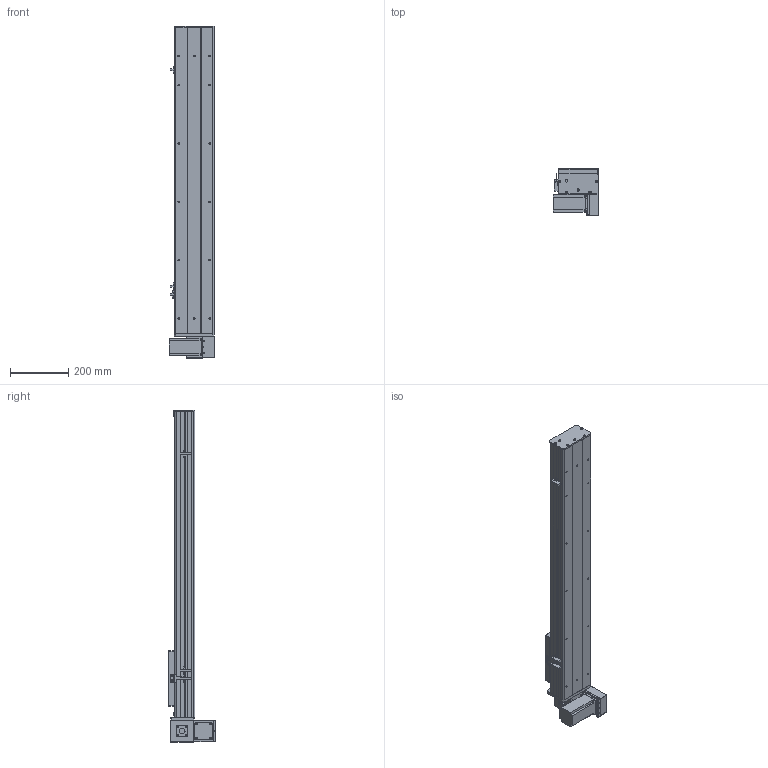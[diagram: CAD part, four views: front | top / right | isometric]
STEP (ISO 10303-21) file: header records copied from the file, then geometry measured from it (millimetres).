
FILE_DESCRIPTION (( 'STEP AP203' ), '1' );
FILE_NAME ('Y135CB-D90-S750-BM-P400W.STEP', '2020-02-18T09:31:44', ( '微软用户' ), ( '微软中国' ), 'SwSTEP 2.0', 'SolidWorks 2017', '' );
FILE_SCHEMA (( 'CONFIG_CONTROL_DESIGN' ));
Length unit declared in the file: millimetre
Products named in the file (18): Y135C-陔俋离換覜結え-; 0B-埴倛裔啣; 5C--俋欶; 0B-源倛裔啣; C-雄赽釱--; 0B-萇儂楊擘啣; Y10B--々湍喘謫眊--666; san松下电机400不带刹车----; 00B-俋欶BM--; 5CB --掛极耜裔啣-; Y10B-耜蚾蟀諉啣----; C-詩湍揤踡え-陔; Y135CB-耜裔; Y135CB-D90-S750-BM-P400W; 135CB--詩湍-CE; 135CB---遴掛极.-; Y100-135俋离換覜ん--; 35CB---喘謫眊楊擘啣
Assembly tree (21 placements, depth 2):
  Y135CB-D90-S750-BM-P400W
    Y135CB-耜裔
    135CB---遴掛极.-
    35CB---喘謫眊楊擘啣
    0B-埴倛裔啣
    0B-源倛裔啣
    0B-萇儂楊擘啣
    san松下电机400不带刹车----
    5CB --掛极耜裔啣-  x2
    C-詩湍揤踡え-陔  x2
    135CB--詩湍-CE
    Y100-135俋离換覜ん--  x3
    Y135C-陔俋离換覜結え-
    5C--俋欶
    C-雄赽釱--
    Y10B--々湍喘謫眊--666
    00B-俋欶BM--
    Y10B-耜蚾蟀諉啣----
Bounding box: 157 x 163.3 x 1138 mm (x, y, z)
Volume: 3737167.9 mm3; surface area: 1455615.3 mm2
Topology: 21 solids, 21 shells, 941 faces, 2509 edges, 1662 vertices
Faces by surface type: cylinder 469, plane 456, cone 16
Entity records: 29147 total; most frequent: DIRECTION 4841, CARTESIAN_POINT 4768, ORIENTED_EDGE 4494, EDGE_CURVE 2247, AXIS2_PLACEMENT_3D 1763, VERTEX_POINT 1490, LINE 1315, VECTOR 1315
